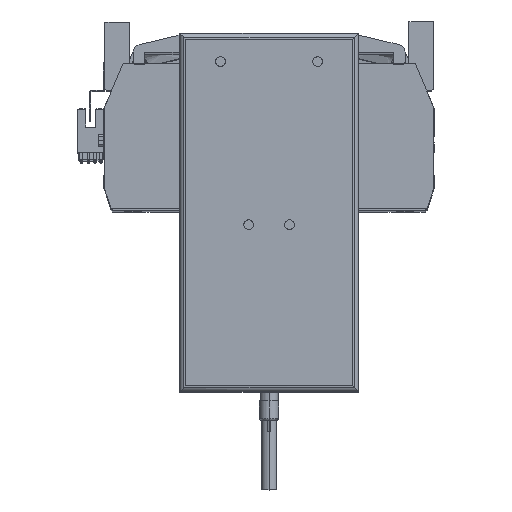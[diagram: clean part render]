
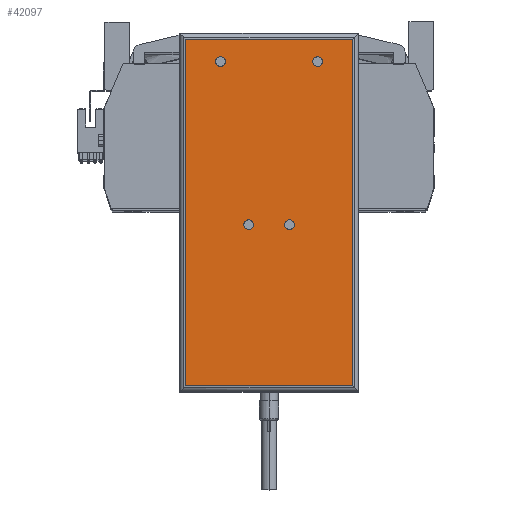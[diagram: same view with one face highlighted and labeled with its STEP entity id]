
A CAD part, top view. The second image highlights one B-rep face of the part: STEP entity #42097.
In plain terms, the highlighted planar face has unit normal (0, 0, 1) as drawn and (0, 0, -1) by its records, which use the part's own axes.
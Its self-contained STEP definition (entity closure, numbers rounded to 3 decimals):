
#674 = CARTESIAN_POINT ( 'NONE',  ( 22.5, 77.75, 0. ) ) ;
#883 = EDGE_LOOP ( 'NONE', ( #13927, #39239 ) ) ;
#1021 = ORIENTED_EDGE ( 'NONE', *, *, #23896, .T. ) ;
#1153 = VERTEX_POINT ( 'NONE', #33160 ) ;
#1260 = LINE ( 'NONE', #5498, #1898 ) ;
#1490 = CARTESIAN_POINT ( 'NONE',  ( 43., -89.25, 0. ) ) ;
#1798 = AXIS2_PLACEMENT_3D ( 'NONE', #44683, #16900, #36480 ) ;
#1843 = EDGE_CURVE ( 'NONE', #23434, #29208, #42941, .T. ) ;
#1898 = VECTOR ( 'NONE', #36640, 1000. ) ;
#2212 = ORIENTED_EDGE ( 'NONE', *, *, #21072, .F. ) ;
#2918 = DIRECTION ( 'NONE',  ( -1., 0., 0. ) ) ;
#3299 = CARTESIAN_POINT ( 'NONE',  ( 8., -6.25, 0. ) ) ;
#3548 = CARTESIAN_POINT ( 'NONE',  ( 10.5, -6.25, 0. ) ) ;
#3641 = DIRECTION ( 'NONE',  ( -1., 0., 0. ) ) ;
#4391 = CARTESIAN_POINT ( 'NONE',  ( -8., -6.25, 0. ) ) ;
#4413 = EDGE_LOOP ( 'NONE', ( #16865, #31230 ) ) ;
#5066 = CARTESIAN_POINT ( 'NONE',  ( 27.5, 77.75, 0. ) ) ;
#5498 = CARTESIAN_POINT ( 'NONE',  ( 43., -92.25, 0. ) ) ;
#6007 = FACE_BOUND ( 'NONE', #883, .T. ) ;
#6838 = ORIENTED_EDGE ( 'NONE', *, *, #7159, .F. ) ;
#7159 = EDGE_CURVE ( 'NONE', #43339, #33155, #28125, .T. ) ;
#8080 = EDGE_CURVE ( 'NONE', #34467, #19214, #1260, .T. ) ;
#8353 = EDGE_CURVE ( 'NONE', #19214, #38682, #37148, .T. ) ;
#8620 = LINE ( 'NONE', #41192, #28081 ) ;
#8638 = AXIS2_PLACEMENT_3D ( 'NONE', #49335, #29776, #25495 ) ;
#9279 = EDGE_LOOP ( 'NONE', ( #31188, #12816, #25731, #1021 ) ) ;
#10586 = CARTESIAN_POINT ( 'NONE',  ( 13., -6.25, 0. ) ) ;
#11172 = DIRECTION ( 'NONE',  ( -1., 0., 0. ) ) ;
#12307 = CIRCLE ( 'NONE', #42436, 2.5 ) ;
#12528 = CARTESIAN_POINT ( 'NONE',  ( -46., 89.25, 0. ) ) ;
#12816 = ORIENTED_EDGE ( 'NONE', *, *, #8353, .T. ) ;
#13157 = CIRCLE ( 'NONE', #13291, 2.5 ) ;
#13291 = AXIS2_PLACEMENT_3D ( 'NONE', #49694, #22479, #2918 ) ;
#13927 = ORIENTED_EDGE ( 'NONE', *, *, #48932, .F. ) ;
#16865 = ORIENTED_EDGE ( 'NONE', *, *, #21584, .F. ) ;
#16900 = DIRECTION ( 'NONE',  ( 0., 0., -1. ) ) ;
#17614 = CARTESIAN_POINT ( 'NONE',  ( -27.5, 77.75, 0. ) ) ;
#17677 = VECTOR ( 'NONE', #3641, 1000. ) ;
#19214 = VERTEX_POINT ( 'NONE', #1490 ) ;
#20470 = CIRCLE ( 'NONE', #44713, 2.5 ) ;
#21072 = EDGE_CURVE ( 'NONE', #45302, #46722, #22591, .T. ) ;
#21291 = FACE_BOUND ( 'NONE', #25232, .T. ) ;
#21584 = EDGE_CURVE ( 'NONE', #47765, #1153, #49930, .T. ) ;
#21684 = CARTESIAN_POINT ( 'NONE',  ( -43., -89.25, 0. ) ) ;
#22479 = DIRECTION ( 'NONE',  ( 0., 0., -1. ) ) ;
#22591 = CIRCLE ( 'NONE', #27176, 2.5 ) ;
#23305 = DIRECTION ( 'NONE',  ( -1., 0., 0. ) ) ;
#23434 = VERTEX_POINT ( 'NONE', #10586 ) ;
#23620 = DIRECTION ( 'NONE',  ( 0., 0., -1. ) ) ;
#23746 = CARTESIAN_POINT ( 'NONE',  ( 25., 77.75, 0. ) ) ;
#23896 = EDGE_CURVE ( 'NONE', #42534, #34467, #29458, .T. ) ;
#25232 = EDGE_LOOP ( 'NONE', ( #2212, #28470 ) ) ;
#25495 = DIRECTION ( 'NONE',  ( -1., 0., 0. ) ) ;
#25523 = DIRECTION ( 'NONE',  ( -1., 0., 0. ) ) ;
#25731 = ORIENTED_EDGE ( 'NONE', *, *, #50226, .T. ) ;
#25853 = CARTESIAN_POINT ( 'NONE',  ( -43., 89.25, 0. ) ) ;
#26978 = CARTESIAN_POINT ( 'NONE',  ( 25., 77.75, 0. ) ) ;
#27142 = DIRECTION ( 'NONE',  ( 0., 0., -1. ) ) ;
#27176 = AXIS2_PLACEMENT_3D ( 'NONE', #23746, #46879, #43290 ) ;
#28069 = DIRECTION ( 'NONE',  ( -1., 0., 0. ) ) ;
#28081 = VECTOR ( 'NONE', #44985, 1000. ) ;
#28125 = CIRCLE ( 'NONE', #1798, 2.5 ) ;
#28470 = ORIENTED_EDGE ( 'NONE', *, *, #35813, .F. ) ;
#29208 = VERTEX_POINT ( 'NONE', #3299 ) ;
#29429 = EDGE_CURVE ( 'NONE', #1153, #47765, #20470, .T. ) ;
#29458 = LINE ( 'NONE', #12528, #39754 ) ;
#29776 = DIRECTION ( 'NONE',  ( 0., 0., -1. ) ) ;
#31134 = CARTESIAN_POINT ( 'NONE',  ( -13., -6.25, 0. ) ) ;
#31188 = ORIENTED_EDGE ( 'NONE', *, *, #8080, .T. ) ;
#31230 = ORIENTED_EDGE ( 'NONE', *, *, #29429, .F. ) ;
#32855 = DIRECTION ( 'NONE',  ( 0., 0., -1. ) ) ;
#33023 = CARTESIAN_POINT ( 'NONE',  ( -25., 77.75, 0. ) ) ;
#33155 = VERTEX_POINT ( 'NONE', #4391 ) ;
#33160 = CARTESIAN_POINT ( 'NONE',  ( -22.5, 77.75, 0. ) ) ;
#34211 = CARTESIAN_POINT ( 'NONE',  ( 43., 89.25, 0. ) ) ;
#34467 = VERTEX_POINT ( 'NONE', #34211 ) ;
#35813 = EDGE_CURVE ( 'NONE', #46722, #45302, #43623, .T. ) ;
#36379 = DIRECTION ( 'NONE',  ( 0., 0., -1. ) ) ;
#36480 = DIRECTION ( 'NONE',  ( -1., 0., 0. ) ) ;
#36487 = DIRECTION ( 'NONE',  ( 1., 0., 0. ) ) ;
#36640 = DIRECTION ( 'NONE',  ( 0., -1., 0. ) ) ;
#36677 = DIRECTION ( 'NONE',  ( 1., 0., 0. ) ) ;
#37148 = LINE ( 'NONE', #49932, #17677 ) ;
#38682 = VERTEX_POINT ( 'NONE', #21684 ) ;
#39239 = ORIENTED_EDGE ( 'NONE', *, *, #1843, .F. ) ;
#39754 = VECTOR ( 'NONE', #36487, 1000. ) ;
#40122 = CARTESIAN_POINT ( 'NONE',  ( 10.5, -6.25, 0. ) ) ;
#40249 = CARTESIAN_POINT ( 'NONE',  ( -46., -92.25, 0. ) ) ;
#40418 = PLANE ( 'NONE',  #50060 ) ;
#40991 = AXIS2_PLACEMENT_3D ( 'NONE', #40122, #36379, #28069 ) ;
#41192 = CARTESIAN_POINT ( 'NONE',  ( -43., -92.25, 0. ) ) ;
#42097 = ADVANCED_FACE ( 'NONE', ( #43206, #47449, #6007, #46251, #21291 ), #40418, .F. ) ;
#42386 = ORIENTED_EDGE ( 'NONE', *, *, #44579, .F. ) ;
#42436 = AXIS2_PLACEMENT_3D ( 'NONE', #3548, #23620, #23305 ) ;
#42534 = VERTEX_POINT ( 'NONE', #25853 ) ;
#42941 = CIRCLE ( 'NONE', #40991, 2.5 ) ;
#43147 = AXIS2_PLACEMENT_3D ( 'NONE', #26978, #27142, #11172 ) ;
#43206 = FACE_OUTER_BOUND ( 'NONE', #9279, .T. ) ;
#43290 = DIRECTION ( 'NONE',  ( -1., 0., 0. ) ) ;
#43339 = VERTEX_POINT ( 'NONE', #31134 ) ;
#43623 = CIRCLE ( 'NONE', #43147, 2.5 ) ;
#44363 = DIRECTION ( 'NONE',  ( 0., 0., 1. ) ) ;
#44579 = EDGE_CURVE ( 'NONE', #33155, #43339, #13157, .T. ) ;
#44683 = CARTESIAN_POINT ( 'NONE',  ( -10.5, -6.25, 0. ) ) ;
#44713 = AXIS2_PLACEMENT_3D ( 'NONE', #33023, #32855, #25523 ) ;
#44985 = DIRECTION ( 'NONE',  ( 0., 1., 0. ) ) ;
#45302 = VERTEX_POINT ( 'NONE', #674 ) ;
#46251 = FACE_BOUND ( 'NONE', #4413, .T. ) ;
#46722 = VERTEX_POINT ( 'NONE', #5066 ) ;
#46879 = DIRECTION ( 'NONE',  ( 0., 0., -1. ) ) ;
#47449 = FACE_BOUND ( 'NONE', #49929, .T. ) ;
#47765 = VERTEX_POINT ( 'NONE', #17614 ) ;
#48932 = EDGE_CURVE ( 'NONE', #29208, #23434, #12307, .T. ) ;
#49335 = CARTESIAN_POINT ( 'NONE',  ( -25., 77.75, 0. ) ) ;
#49694 = CARTESIAN_POINT ( 'NONE',  ( -10.5, -6.25, 0. ) ) ;
#49929 = EDGE_LOOP ( 'NONE', ( #6838, #42386 ) ) ;
#49930 = CIRCLE ( 'NONE', #8638, 2.5 ) ;
#49932 = CARTESIAN_POINT ( 'NONE',  ( -46., -89.25, 0. ) ) ;
#50060 = AXIS2_PLACEMENT_3D ( 'NONE', #40249, #44363, #36677 ) ;
#50226 = EDGE_CURVE ( 'NONE', #38682, #42534, #8620, .T. ) ;
